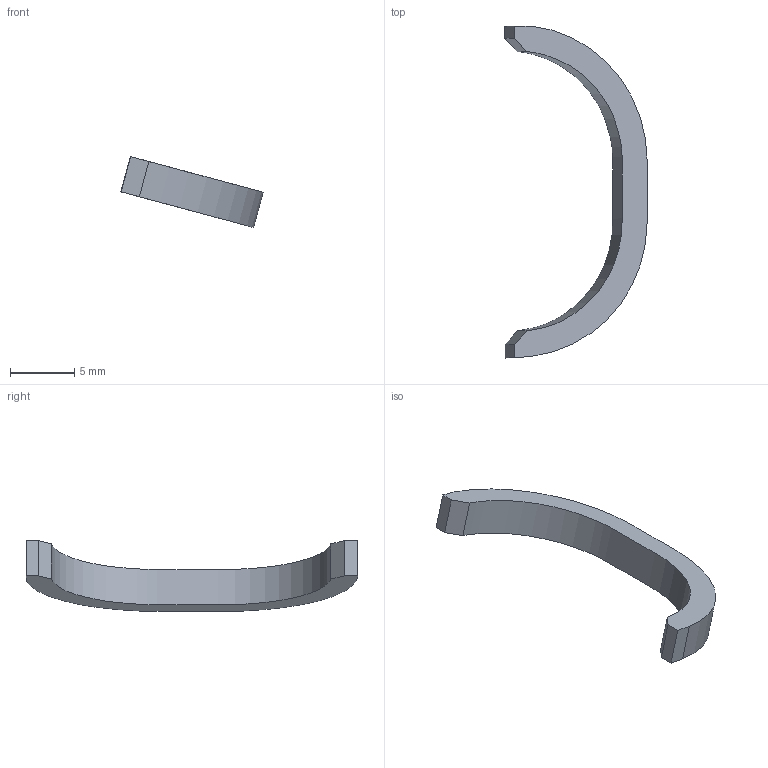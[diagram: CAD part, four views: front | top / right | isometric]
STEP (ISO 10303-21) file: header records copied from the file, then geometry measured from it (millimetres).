
FILE_DESCRIPTION(/* description */ (''),/* implementation_level */ '2;1');
FILE_NAME(/* name */ 'D:/Pew Pews/FGC-9_MkII_Stingray_Edition/Stingray Edition/.step files/5 - Pistol Grip/bottom grip inset.step',/* time_stamp */ '2022-05-12T10:58:03-06:00',/* author */ (''),/* organization */ (''),/* preprocessor_version */ 'ST-DEVELOPER v18.1',/* originating_system */ 'Autodesk Translation Framework v10.10.0.1391',/* authorisation */ '');
FILE_SCHEMA (('AUTOMOTIVE_DESIGN { 1 0 10303 214 3 1 1 }'));
Length unit declared in the file: millimetre
Products named in the file (1): bottom grip inset
Bounding box: 11.08 x 25.86 x 5.52 mm (x, y, z)
Volume: 203 mm3; surface area: 345.8 mm2
Topology: 1 solids, 1 shells, 12 faces, 30 edges, 20 vertices
Faces by surface type: plane 7, bspline 3, cylinder 2
Entity records: 528 total; most frequent: CARTESIAN_POINT 222, ORIENTED_EDGE 60, DIRECTION 44, EDGE_CURVE 30, VERTEX_POINT 20, LINE 16, VECTOR 16, AXIS2_PLACEMENT_3D 14
